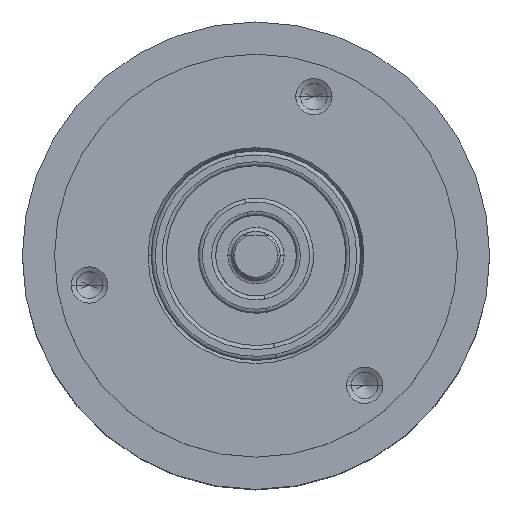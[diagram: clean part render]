
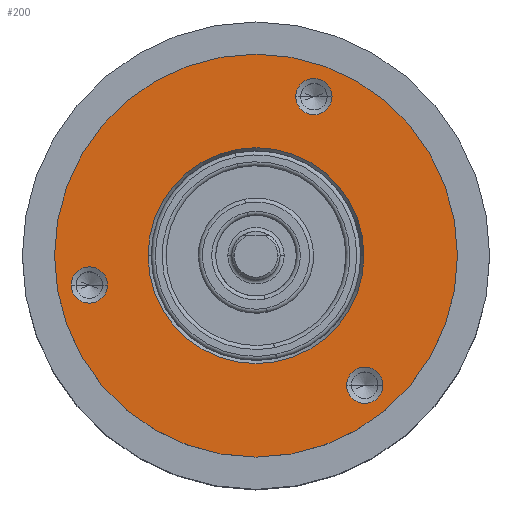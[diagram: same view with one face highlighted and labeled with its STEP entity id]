
A CAD part, top view. The second image highlights one B-rep face of the part: STEP entity #200.
In plain terms, the highlighted planar face has unit normal (0, 0, 1).
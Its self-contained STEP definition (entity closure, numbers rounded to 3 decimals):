
#157 = EDGE_LOOP ( 'NONE', ( #201, #202 ) ) ;
#183 = EDGE_LOOP ( 'NONE', ( #184, #257 ) ) ;
#184 = ORIENTED_EDGE ( 'NONE', *, *, #256, .F. ) ;
#188 = EDGE_CURVE ( 'NONE', #9988, #9987, #2671, .T. ) ;
#189 = EDGE_LOOP ( 'NONE', ( #190, #191 ) ) ;
#190 = ORIENTED_EDGE ( 'NONE', *, *, #9986, .F. ) ;
#191 = ORIENTED_EDGE ( 'NONE', *, *, #188, .F. ) ;
#200 = ADVANCED_FACE ( 'NONE', ( #2663, #2659, #2658, #2657, #2656 ), #2655, .F. ) ;
#201 = ORIENTED_EDGE ( 'NONE', *, *, #9715, .T. ) ;
#202 = ORIENTED_EDGE ( 'NONE', *, *, #229, .T. ) ;
#216 = EDGE_LOOP ( 'NONE', ( #217, #260 ) ) ;
#217 = ORIENTED_EDGE ( 'NONE', *, *, #218, .F. ) ;
#218 = EDGE_CURVE ( 'NONE', #10044, #10041, #2793, .T. ) ;
#229 = EDGE_CURVE ( 'NONE', #10046, #9749, #2823, .T. ) ;
#230 = EDGE_LOOP ( 'NONE', ( #231, #233 ) ) ;
#231 = ORIENTED_EDGE ( 'NONE', *, *, #232, .F. ) ;
#232 = EDGE_CURVE ( 'NONE', #9685, #10038, #2790, .T. ) ;
#233 = ORIENTED_EDGE ( 'NONE', *, *, #9684, .F. ) ;
#256 = EDGE_CURVE ( 'NONE', #9925, #9858, #2805, .T. ) ;
#257 = ORIENTED_EDGE ( 'NONE', *, *, #9924, .F. ) ;
#260 = ORIENTED_EDGE ( 'NONE', *, *, #10043, .F. ) ;
#346 = DIRECTION ( 'NONE',  ( 1., 0., 0. ) ) ;
#347 = DIRECTION ( 'NONE',  ( 0., 0., 1. ) ) ;
#348 = CARTESIAN_POINT ( 'NONE',  ( -20.681, -3.647, 11. ) ) ;
#349 = AXIS2_PLACEMENT_3D ( 'NONE', #348, #347, #346 ) ;
#350 = CARTESIAN_POINT ( 'NONE',  ( -22.931, -3.647, 11. ) ) ;
#351 = CIRCLE ( 'NONE', #349, 2.25 ) ;
#352 = CARTESIAN_POINT ( 'NONE',  ( -18.431, -3.647, 11. ) ) ;
#353 = CARTESIAN_POINT ( 'NONE',  ( -13.4, 0., 11. ) ) ;
#2655 = PLANE ( 'NONE',  #2719 ) ;
#2656 = FACE_OUTER_BOUND ( 'NONE', #189, .T. ) ;
#2657 = FACE_BOUND ( 'NONE', #183, .T. ) ;
#2658 = FACE_BOUND ( 'NONE', #216, .T. ) ;
#2659 = FACE_BOUND ( 'NONE', #230, .T. ) ;
#2663 = FACE_BOUND ( 'NONE', #157, .T. ) ;
#2667 = DIRECTION ( 'NONE',  ( -1., 0., 0. ) ) ;
#2668 = DIRECTION ( 'NONE',  ( 0., 0., -1. ) ) ;
#2669 = CARTESIAN_POINT ( 'NONE',  ( 0., 0., 11. ) ) ;
#2670 = AXIS2_PLACEMENT_3D ( 'NONE', #2669, #2668, #2667 ) ;
#2671 = CIRCLE ( 'NONE', #2670, 25. ) ;
#2716 = DIRECTION ( 'NONE',  ( -1., 0., 0. ) ) ;
#2717 = DIRECTION ( 'NONE',  ( 0., 0., -1. ) ) ;
#2718 = CARTESIAN_POINT ( 'NONE',  ( 0., 25., 11. ) ) ;
#2719 = AXIS2_PLACEMENT_3D ( 'NONE', #2718, #2717, #2716 ) ;
#2756 = DIRECTION ( 'NONE',  ( 0., 0., 1. ) ) ;
#2787 = DIRECTION ( 'NONE',  ( 1., 0., 0. ) ) ;
#2788 = DIRECTION ( 'NONE',  ( 0., 0., 1. ) ) ;
#2789 = AXIS2_PLACEMENT_3D ( 'NONE', #2824, #2788, #2787 ) ;
#2790 = CIRCLE ( 'NONE', #2789, 2.25 ) ;
#2793 = CIRCLE ( 'NONE', #2867, 2.25 ) ;
#2803 = DIRECTION ( 'NONE',  ( 1., 0., 0. ) ) ;
#2805 = CIRCLE ( 'NONE', #2850, 2.25 ) ;
#2819 = DIRECTION ( 'NONE',  ( -1., 0., 0. ) ) ;
#2820 = DIRECTION ( 'NONE',  ( 0., 0., -1. ) ) ;
#2821 = CARTESIAN_POINT ( 'NONE',  ( 0., 0., 11. ) ) ;
#2822 = AXIS2_PLACEMENT_3D ( 'NONE', #2821, #2820, #2819 ) ;
#2823 = CIRCLE ( 'NONE', #2822, 13.4 ) ;
#2824 = CARTESIAN_POINT ( 'NONE',  ( 13.499, -16.087, 11. ) ) ;
#2847 = DIRECTION ( 'NONE',  ( 1., 0., 0. ) ) ;
#2848 = DIRECTION ( 'NONE',  ( 0., 0., 1. ) ) ;
#2849 = CARTESIAN_POINT ( 'NONE',  ( 7.182, 19.734, 11. ) ) ;
#2850 = AXIS2_PLACEMENT_3D ( 'NONE', #2849, #2848, #2847 ) ;
#2851 = CARTESIAN_POINT ( 'NONE',  ( -20.681, -3.647, 11. ) ) ;
#2867 = AXIS2_PLACEMENT_3D ( 'NONE', #2851, #2756, #2803 ) ;
#3252 = DIRECTION ( 'NONE',  ( 1., 0., 0. ) ) ;
#3607 = DIRECTION ( 'NONE',  ( 0., 0., 1. ) ) ;
#3608 = CARTESIAN_POINT ( 'NONE',  ( 13.499, -16.087, 11. ) ) ;
#3609 = AXIS2_PLACEMENT_3D ( 'NONE', #3608, #3607, #3252 ) ;
#3610 = CIRCLE ( 'NONE', #3609, 2.25 ) ;
#3630 = CARTESIAN_POINT ( 'NONE',  ( 15.749, -16.087, 11. ) ) ;
#3748 = DIRECTION ( 'NONE',  ( -1., 0., 0. ) ) ;
#3994 = DIRECTION ( 'NONE',  ( 0., 0., -1. ) ) ;
#3995 = CARTESIAN_POINT ( 'NONE',  ( 0., 0., 11. ) ) ;
#3997 = AXIS2_PLACEMENT_3D ( 'NONE', #3995, #3994, #3748 ) ;
#4034 = CIRCLE ( 'NONE', #3997, 13.4 ) ;
#5914 = CARTESIAN_POINT ( 'NONE',  ( 13.4, 0., 11. ) ) ;
#6120 = CIRCLE ( 'NONE', #6178, 2.25 ) ;
#6128 = CARTESIAN_POINT ( 'NONE',  ( 4.932, 19.734, 11. ) ) ;
#6177 = CARTESIAN_POINT ( 'NONE',  ( 7.182, 19.734, 11. ) ) ;
#6178 = AXIS2_PLACEMENT_3D ( 'NONE', #6177, #6182, #6183 ) ;
#6182 = DIRECTION ( 'NONE',  ( 0., 0., 1. ) ) ;
#6183 = DIRECTION ( 'NONE',  ( 1., 0., 0. ) ) ;
#6308 = CARTESIAN_POINT ( 'NONE',  ( 9.432, 19.734, 11. ) ) ;
#7645 = CARTESIAN_POINT ( 'NONE',  ( 25., 0., 11. ) ) ;
#7646 = CARTESIAN_POINT ( 'NONE',  ( -25., 0., 11. ) ) ;
#7647 = DIRECTION ( 'NONE',  ( -1., 0., 0. ) ) ;
#7648 = DIRECTION ( 'NONE',  ( 0., 0., -1. ) ) ;
#7649 = CARTESIAN_POINT ( 'NONE',  ( 0., 0., 11. ) ) ;
#7650 = AXIS2_PLACEMENT_3D ( 'NONE', #7649, #7648, #7647 ) ;
#7672 = CIRCLE ( 'NONE', #7650, 25. ) ;
#9462 = CARTESIAN_POINT ( 'NONE',  ( 11.249, -16.087, 11. ) ) ;
#9684 = EDGE_CURVE ( 'NONE', #10038, #9685, #3610, .T. ) ;
#9685 = VERTEX_POINT ( 'NONE', #3630 ) ;
#9715 = EDGE_CURVE ( 'NONE', #9749, #10046, #4034, .T. ) ;
#9749 = VERTEX_POINT ( 'NONE', #5914 ) ;
#9858 = VERTEX_POINT ( 'NONE', #6128 ) ;
#9924 = EDGE_CURVE ( 'NONE', #9858, #9925, #6120, .T. ) ;
#9925 = VERTEX_POINT ( 'NONE', #6308 ) ;
#9986 = EDGE_CURVE ( 'NONE', #9987, #9988, #7672, .T. ) ;
#9987 = VERTEX_POINT ( 'NONE', #7646 ) ;
#9988 = VERTEX_POINT ( 'NONE', #7645 ) ;
#10038 = VERTEX_POINT ( 'NONE', #9462 ) ;
#10041 = VERTEX_POINT ( 'NONE', #350 ) ;
#10043 = EDGE_CURVE ( 'NONE', #10041, #10044, #351, .T. ) ;
#10044 = VERTEX_POINT ( 'NONE', #352 ) ;
#10046 = VERTEX_POINT ( 'NONE', #353 ) ;
